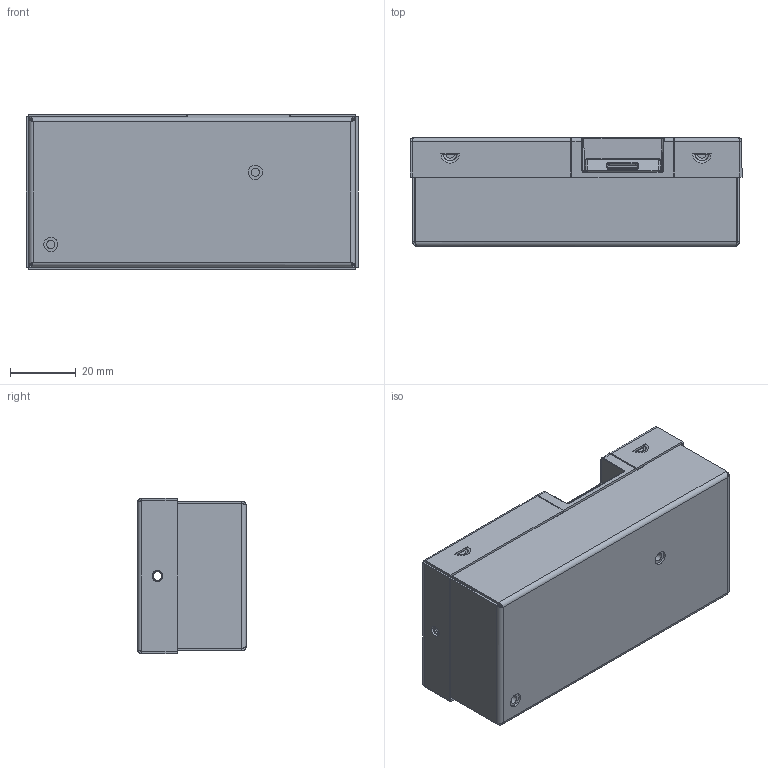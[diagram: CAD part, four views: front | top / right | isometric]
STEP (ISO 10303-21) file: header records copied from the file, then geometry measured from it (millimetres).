
FILE_DESCRIPTION (( 'STEP AP214' ), '1' );
FILE_NAME ('1161 BF.STEP', '2016-08-18T13:53:24', ( 'Engineering6' ), ( 'Windows User' ), 'SwSTEP 2.0', 'SolidWorks 2015', '' );
FILE_SCHEMA (( 'AUTOMOTIVE_DESIGN' ));
Length unit declared in the file: millimetre
Products named in the file (6): ILOC-303; ILOC-200; ILOC-201; ILOC-502_1161 DEFAULT (BF); ILOC-501_1161 ALTERNATE (SL); 1161 BF
Assembly tree (5 placements, depth 3):
  1161 BF
    ILOC-501_1161 ALTERNATE (SL)
    ILOC-502_1161 DEFAULT (BF)
    ILOC-200
      ILOC-201
    ILOC-303
Bounding box: 101 x 33 x 47.2 mm (x, y, z)
Volume: 15512.9 mm3; surface area: 44755.3 mm2
Topology: 6 solids, 6 shells, 765 faces, 1812 edges, 1053 vertices
Faces by surface type: plane 278, cylinder 268, bspline 148, sphere 42, torus 20, cone 9
Full cylindrical faces by diameter (mm): 2.5 x2, 2.7 x2, 3.3 x2, 4.1 x2, 4.3 x4, 12.6 x1
Entity records: 24500 total; most frequent: CARTESIAN_POINT 8246, ORIENTED_EDGE 3570, DIRECTION 3023, EDGE_CURVE 1785, VERTEX_POINT 1048, AXIS2_PLACEMENT_3D 1044, VECTOR 935, LINE 935
